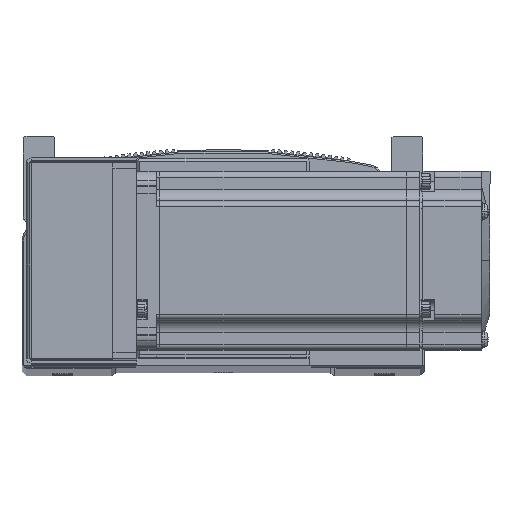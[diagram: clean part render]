
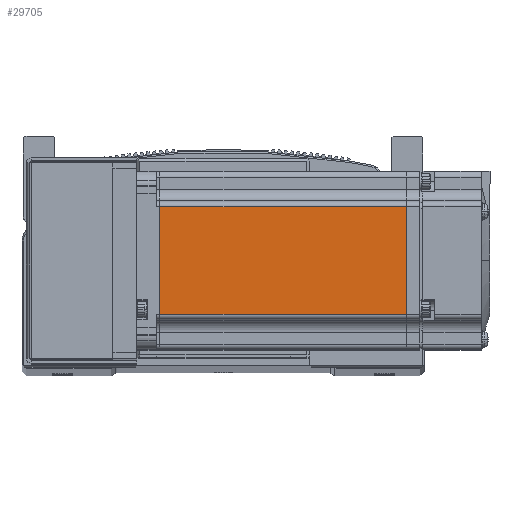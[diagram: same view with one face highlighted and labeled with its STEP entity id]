
A CAD part, top view. The second image highlights one B-rep face of the part: STEP entity #29705.
In plain terms, the highlighted planar face has unit normal (0, 0, 1) as drawn and (0, 0, -1) by its records, which use the part's own axes.
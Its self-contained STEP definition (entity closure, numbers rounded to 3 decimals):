
#12444 = VECTOR ( 'NONE', #22387, 1000. ) ;
#12466 = LINE ( 'NONE', #22413, #12444 ) ;
#12471 = LINE ( 'NONE', #22402, #12475 ) ;
#12475 = VECTOR ( 'NONE', #22373, 1000. ) ;
#13509 = LINE ( 'NONE', #22258, #13538 ) ;
#13531 = LINE ( 'NONE', #22333, #13533 ) ;
#13533 = VECTOR ( 'NONE', #22316, 1000. ) ;
#13538 = VECTOR ( 'NONE', #22278, 1000. ) ;
#17787 = ORIENTED_EDGE ( 'NONE', *, *, #71716, .T. ) ;
#17789 = ORIENTED_EDGE ( 'NONE', *, *, #71678, .T. ) ;
#17807 = ORIENTED_EDGE ( 'NONE', *, *, #71713, .T. ) ;
#17812 = ORIENTED_EDGE ( 'NONE', *, *, #71659, .T. ) ;
#21661 = FACE_OUTER_BOUND ( 'NONE', #81717, .T. ) ;
#22258 = CARTESIAN_POINT ( 'NONE',  ( -6.5, 18., -30. ) ) ;
#22278 = DIRECTION ( 'NONE',  ( 1., 0., 0. ) ) ;
#22316 = DIRECTION ( 'NONE',  ( 0., 1., 0. ) ) ;
#22333 = CARTESIAN_POINT ( 'NONE',  ( -90.45, 25., -30. ) ) ;
#22373 = DIRECTION ( 'NONE',  ( 0., -1., 0. ) ) ;
#22387 = DIRECTION ( 'NONE',  ( -1., 0., 0. ) ) ;
#22402 = CARTESIAN_POINT ( 'NONE',  ( -7.75, 25., -30. ) ) ;
#22413 = CARTESIAN_POINT ( 'NONE',  ( -6.5, -18., -30. ) ) ;
#29705 = ADVANCED_FACE ( 'NONE', ( #21661 ), #35997, .T. ) ;
#35997 = PLANE ( 'NONE',  #65547 ) ;
#36006 = CARTESIAN_POINT ( 'NONE',  ( -6.5, 25., -30. ) ) ;
#36013 = DIRECTION ( 'NONE',  ( -1., 0., 0. ) ) ;
#36031 = DIRECTION ( 'NONE',  ( 0., 0., -1. ) ) ;
#48397 = CARTESIAN_POINT ( 'NONE',  ( -90.45, -18., -30. ) ) ;
#48402 = CARTESIAN_POINT ( 'NONE',  ( -7.75, 18., -30. ) ) ;
#48406 = CARTESIAN_POINT ( 'NONE',  ( -90.45, 18., -30. ) ) ;
#48504 = CARTESIAN_POINT ( 'NONE',  ( -7.75, -18., -30. ) ) ;
#59358 = VERTEX_POINT ( 'NONE', #48402 ) ;
#59383 = VERTEX_POINT ( 'NONE', #48406 ) ;
#59394 = VERTEX_POINT ( 'NONE', #48397 ) ;
#59468 = VERTEX_POINT ( 'NONE', #48504 ) ;
#65547 = AXIS2_PLACEMENT_3D ( 'NONE', #36006, #36031, #36013 ) ;
#71659 = EDGE_CURVE ( 'NONE', #59383, #59358, #13509, .T. ) ;
#71678 = EDGE_CURVE ( 'NONE', #59394, #59383, #13531, .T. ) ;
#71713 = EDGE_CURVE ( 'NONE', #59468, #59394, #12466, .T. ) ;
#71716 = EDGE_CURVE ( 'NONE', #59358, #59468, #12471, .T. ) ;
#81717 = EDGE_LOOP ( 'NONE', ( #17787, #17807, #17789, #17812 ) ) ;
